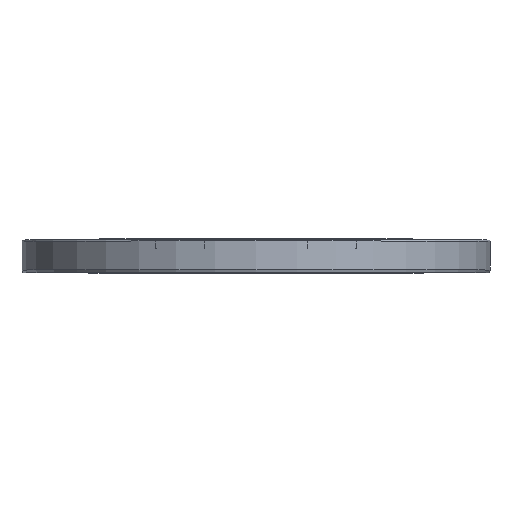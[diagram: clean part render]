
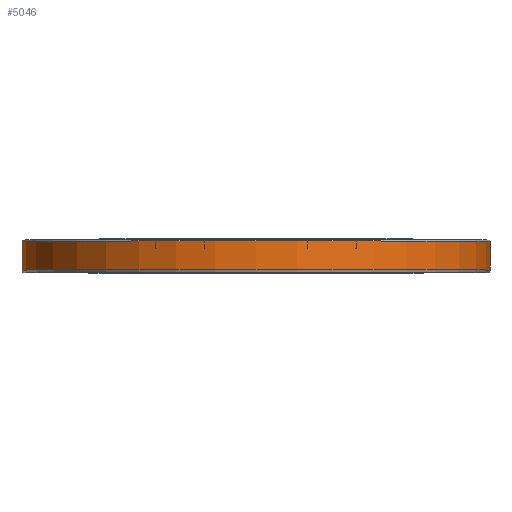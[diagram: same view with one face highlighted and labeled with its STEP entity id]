
A CAD part, top view. The second image highlights one B-rep face of the part: STEP entity #5046.
In plain terms, the highlighted cylindrical face has radius 177.5 mm (diameter 355 mm), a partial arc.
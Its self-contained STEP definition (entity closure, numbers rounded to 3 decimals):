
#1807=DIRECTION('',(0.,-1.,0.));
#1808=VECTOR('',#1807,21.8);
#1809=CARTESIAN_POINT('',(-177.5,23.8,0.));
#1810=LINE('',#1809,#1808);
#1811=DIRECTION('',(0.,1.,0.));
#1812=VECTOR('',#1811,21.8);
#1813=CARTESIAN_POINT('',(177.5,2.,0.));
#1814=LINE('',#1813,#1812);
#1820=CARTESIAN_POINT('',(0.,23.8,0.));
#1821=DIRECTION('',(0.,-1.,0.));
#1822=DIRECTION('',(1.,0.,0.));
#1823=AXIS2_PLACEMENT_3D('',#1820,#1821,#1822);
#1825=CARTESIAN_POINT('',(0.,2.,0.));
#1826=DIRECTION('',(0.,1.,0.));
#1827=DIRECTION('',(-1.,0.,0.));
#1828=AXIS2_PLACEMENT_3D('',#1825,#1826,#1827);
#2022=CARTESIAN_POINT('',(-177.5,2.,0.));
#2024=VERTEX_POINT('',#2022);
#2052=CARTESIAN_POINT('',(177.5,2.,0.));
#2054=VERTEX_POINT('',#2052);
#2228=CARTESIAN_POINT('',(-177.5,23.8,0.));
#2229=CARTESIAN_POINT('',(177.5,23.8,0.));
#2230=VERTEX_POINT('',#2228);
#2231=VERTEX_POINT('',#2229);
#5033=CARTESIAN_POINT('',(0.,0.,0.));
#5034=DIRECTION('',(0.,1.,0.));
#5035=DIRECTION('',(1.,0.,0.));
#5036=AXIS2_PLACEMENT_3D('',#5033,#5034,#5035);
#5037=CYLINDRICAL_SURFACE('',#5036,177.5);
#5038=ORIENTED_EDGE('',*,*,#5020,.F.);
#5040=ORIENTED_EDGE('',*,*,#5039,.F.);
#5041=ORIENTED_EDGE('',*,*,#5016,.F.);
#5043=ORIENTED_EDGE('',*,*,#5042,.F.);
#5044=EDGE_LOOP('',(#5038,#5040,#5041,#5043));
#5045=FACE_OUTER_BOUND('',#5044,.F.);
#1824=CIRCLE('',#1823,177.5);
#1829=CIRCLE('',#1828,177.5);
#5016=EDGE_CURVE('',#2230,#2024,#1810,.T.);
#5020=EDGE_CURVE('',#2054,#2231,#1814,.T.);
#5039=EDGE_CURVE('',#2024,#2054,#1829,.T.);
#5042=EDGE_CURVE('',#2231,#2230,#1824,.T.);
#5046=ADVANCED_FACE('',(#5045),#5037,.T.);
